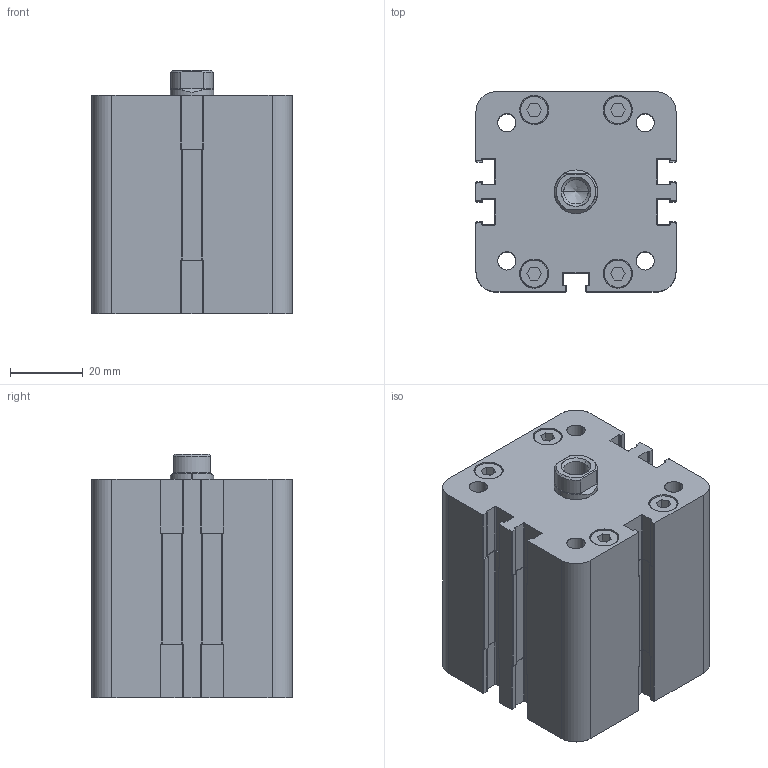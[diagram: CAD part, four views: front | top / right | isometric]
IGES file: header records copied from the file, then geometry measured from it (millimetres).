
Start section: SolidWorks IGES file using analytic representation for surfaces
Global section: file name: K:\Disegni Esecutivi\Cilindri\2_DISEGNI_cilindri_in_produzione\CILINDRO_ISO_21287\seconda versione cilindro 21287\2_CIL40\complessivi_W_40\W_40_PIENI\WF040_PIENO\WF0400015A.igs; native system: SolidWorks 2011; preprocessor: SolidWorks 2011; author: Cad01; date: 120803.170001; units: millimetre
Bounding box: 55 x 55 x 66.9 mm (x, y, z)
Surface area: 28967.7 mm2 (no closed solid volume)
Topology: 0 solids, 0 shells, 405 faces, 4631 edges, 4629 vertices
Faces by surface type: bspline 208, revolution 197
